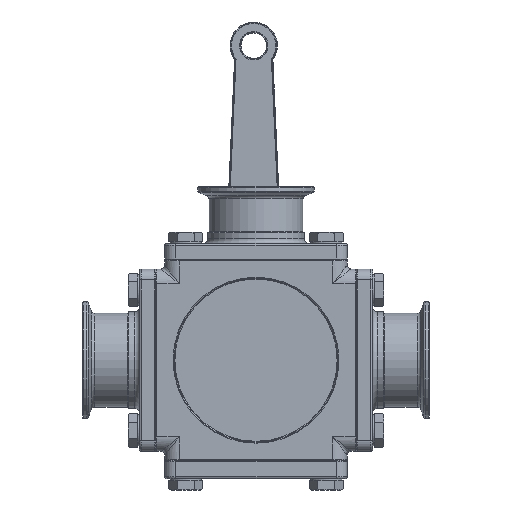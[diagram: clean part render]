
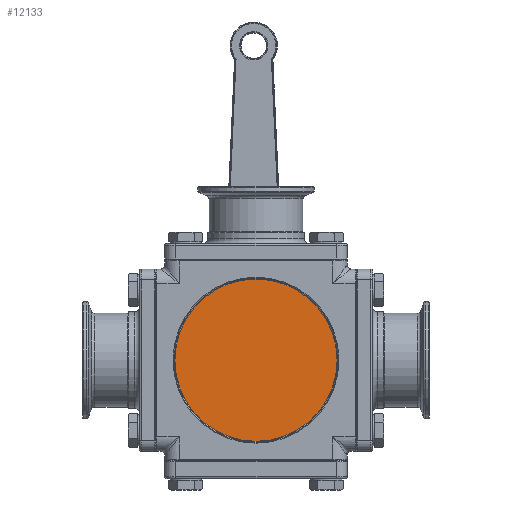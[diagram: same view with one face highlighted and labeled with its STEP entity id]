
A CAD part, front view. The second image highlights one B-rep face of the part: STEP entity #12133.
In plain terms, the highlighted planar face has unit normal (0, -1, 0).
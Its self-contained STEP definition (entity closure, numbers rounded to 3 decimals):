
#497 = CARTESIAN_POINT ( 'NONE',  ( 0., -48.5, 44.5 ) ) ;
#3926 = CARTESIAN_POINT ( 'NONE',  ( 0., -48.5, 0. ) ) ;
#4244 = ORIENTED_EDGE ( 'NONE', *, *, #31071, .T. ) ;
#4802 = VERTEX_POINT ( 'NONE', #497 ) ;
#6150 = AXIS2_PLACEMENT_3D ( 'NONE', #3926, #14272, #19308 ) ;
#7748 = DIRECTION ( 'NONE',  ( 0., 0., -1. ) ) ;
#9347 = AXIS2_PLACEMENT_3D ( 'NONE', #27035, #11444, #29630 ) ;
#9743 = CARTESIAN_POINT ( 'NONE',  ( 0., -48.5, -44.5 ) ) ;
#10126 = CARTESIAN_POINT ( 'NONE',  ( 0., -48.5, 0. ) ) ;
#10679 = VERTEX_POINT ( 'NONE', #9743 ) ;
#11444 = DIRECTION ( 'NONE',  ( 0., -1., 0. ) ) ;
#12133 = ADVANCED_FACE ( 'NONE', ( #29291 ), #29394, .T. ) ;
#14272 = DIRECTION ( 'NONE',  ( 0., -1., 0. ) ) ;
#15580 = DIRECTION ( 'NONE',  ( 0., -1., 0. ) ) ;
#17744 = CIRCLE ( 'NONE', #33060, 44.5 ) ;
#19308 = DIRECTION ( 'NONE',  ( 0., 0., -1. ) ) ;
#25731 = ORIENTED_EDGE ( 'NONE', *, *, #30729, .T. ) ;
#26900 = CIRCLE ( 'NONE', #9347, 44.5 ) ;
#27035 = CARTESIAN_POINT ( 'NONE',  ( 0., -48.5, 0. ) ) ;
#27836 = EDGE_LOOP ( 'NONE', ( #4244, #25731 ) ) ;
#29291 = FACE_OUTER_BOUND ( 'NONE', #27836, .T. ) ;
#29394 = PLANE ( 'NONE',  #6150 ) ;
#29630 = DIRECTION ( 'NONE',  ( 0., 0., -1. ) ) ;
#30729 = EDGE_CURVE ( 'NONE', #4802, #10679, #17744, .T. ) ;
#31071 = EDGE_CURVE ( 'NONE', #10679, #4802, #26900, .T. ) ;
#33060 = AXIS2_PLACEMENT_3D ( 'NONE', #10126, #15580, #7748 ) ;
